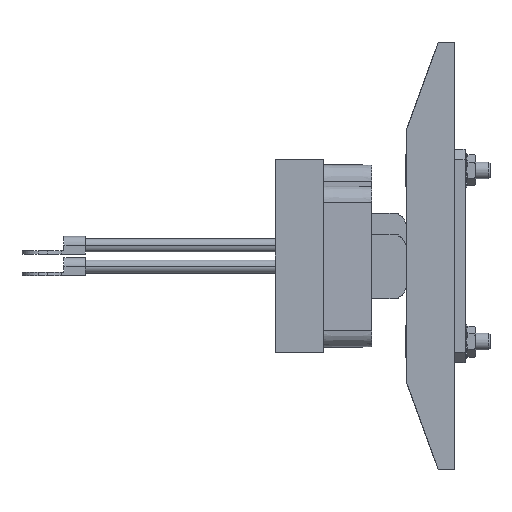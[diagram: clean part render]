
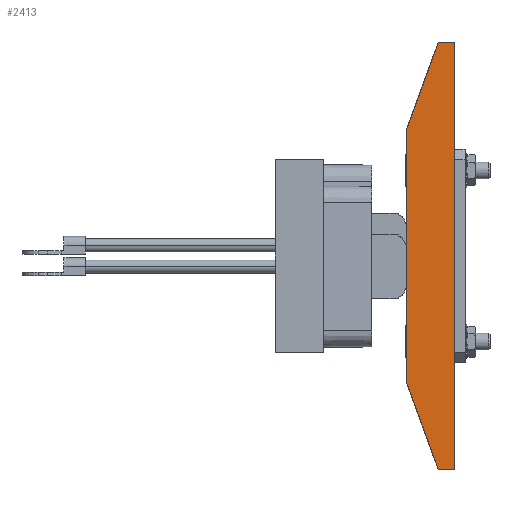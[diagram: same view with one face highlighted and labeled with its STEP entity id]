
A CAD part, left-side view. The second image highlights one B-rep face of the part: STEP entity #2413.
In plain terms, the highlighted planar face has unit normal (-1, 0, 0).
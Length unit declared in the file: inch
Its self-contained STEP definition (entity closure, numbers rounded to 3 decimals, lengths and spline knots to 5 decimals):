
#119 = ORIENTED_EDGE ( 'NONE', *, *, #16176, .T. ) ;
#360 = ORIENTED_EDGE ( 'NONE', *, *, #8044, .T. ) ;
#414 = LINE ( 'NONE', #10645, #8795 ) ;
#929 = CARTESIAN_POINT ( 'NONE',  ( -1.25, 0.5625, 2.5 ) ) ;
#1113 = VERTEX_POINT ( 'NONE', #8811 ) ;
#1153 = LINE ( 'NONE', #17623, #18449 ) ;
#1293 = VECTOR ( 'NONE', #1567, 39.37008 ) ;
#1567 = DIRECTION ( 'NONE',  ( 0., 0.342, -0.94 ) ) ;
#2128 = VERTEX_POINT ( 'NONE', #10040 ) ;
#2276 = DIRECTION ( 'NONE',  ( 0., -0.342, -0.94 ) ) ;
#2396 = EDGE_CURVE ( 'NONE', #1113, #5554, #414, .T. ) ;
#2413 = ADVANCED_FACE ( 'NONE', ( #4317 ), #3952, .F. ) ;
#2474 = CARTESIAN_POINT ( 'NONE',  ( -1.25, 0., 2.5 ) ) ;
#3952 = PLANE ( 'NONE',  #9291 ) ;
#4317 = FACE_OUTER_BOUND ( 'NONE', #19064, .T. ) ;
#4684 = LINE ( 'NONE', #11699, #1293 ) ;
#5541 = ORIENTED_EDGE ( 'NONE', *, *, #7091, .T. ) ;
#5554 = VERTEX_POINT ( 'NONE', #20768 ) ;
#5607 = VECTOR ( 'NONE', #5887, 39.37008 ) ;
#5699 = CARTESIAN_POINT ( 'NONE',  ( -1.25, 0.5625, 1.4697 ) ) ;
#5764 = VECTOR ( 'NONE', #20800, 39.37008 ) ;
#5887 = DIRECTION ( 'NONE',  ( 0., -1., 0. ) ) ;
#6987 = CARTESIAN_POINT ( 'NONE',  ( -1.25, 0.5625, 2.5 ) ) ;
#7028 = VERTEX_POINT ( 'NONE', #5699 ) ;
#7091 = EDGE_CURVE ( 'NONE', #18339, #13708, #14686, .T. ) ;
#8044 = EDGE_CURVE ( 'NONE', #5554, #18339, #1153, .T. ) ;
#8082 = EDGE_CURVE ( 'NONE', #2128, #13708, #8239, .T. ) ;
#8239 = LINE ( 'NONE', #929, #5607 ) ;
#8795 = VECTOR ( 'NONE', #2276, 39.37008 ) ;
#8811 = CARTESIAN_POINT ( 'NONE',  ( -1.25, 0.5625, -1.4697 ) ) ;
#8856 = VECTOR ( 'NONE', #18718, 39.37008 ) ;
#9022 = DIRECTION ( 'NONE',  ( 1., 0., 0. ) ) ;
#9291 = AXIS2_PLACEMENT_3D ( 'NONE', #17365, #9022, #20728 ) ;
#10040 = CARTESIAN_POINT ( 'NONE',  ( -1.25, 0.1875, 2.5 ) ) ;
#10645 = CARTESIAN_POINT ( 'NONE',  ( -1.25, 0.5625, -1.4697 ) ) ;
#10967 = DIRECTION ( 'NONE',  ( 0., -1., 0. ) ) ;
#11699 = CARTESIAN_POINT ( 'NONE',  ( -1.25, 0.5625, 1.4697 ) ) ;
#12315 = ORIENTED_EDGE ( 'NONE', *, *, #2396, .T. ) ;
#13708 = VERTEX_POINT ( 'NONE', #2474 ) ;
#14152 = CARTESIAN_POINT ( 'NONE',  ( -1.25, 0., 2.5 ) ) ;
#14686 = LINE ( 'NONE', #14152, #5764 ) ;
#15582 = ORIENTED_EDGE ( 'NONE', *, *, #8082, .F. ) ;
#16176 = EDGE_CURVE ( 'NONE', #2128, #7028, #4684, .T. ) ;
#17365 = CARTESIAN_POINT ( 'NONE',  ( -1.25, 0.5625, 2.5 ) ) ;
#17623 = CARTESIAN_POINT ( 'NONE',  ( -1.25, 0.5625, -2.5 ) ) ;
#18339 = VERTEX_POINT ( 'NONE', #19680 ) ;
#18449 = VECTOR ( 'NONE', #10967, 39.37008 ) ;
#18639 = EDGE_CURVE ( 'NONE', #1113, #7028, #21697, .T. ) ;
#18718 = DIRECTION ( 'NONE',  ( 0., 0., 1. ) ) ;
#18731 = ORIENTED_EDGE ( 'NONE', *, *, #18639, .F. ) ;
#19064 = EDGE_LOOP ( 'NONE', ( #18731, #12315, #360, #5541, #15582, #119 ) ) ;
#19680 = CARTESIAN_POINT ( 'NONE',  ( -1.25, 0., -2.5 ) ) ;
#20728 = DIRECTION ( 'NONE',  ( 0., 0., -1. ) ) ;
#20768 = CARTESIAN_POINT ( 'NONE',  ( -1.25, 0.1875, -2.5 ) ) ;
#20800 = DIRECTION ( 'NONE',  ( 0., 0., 1. ) ) ;
#21697 = LINE ( 'NONE', #6987, #8856 ) ;
